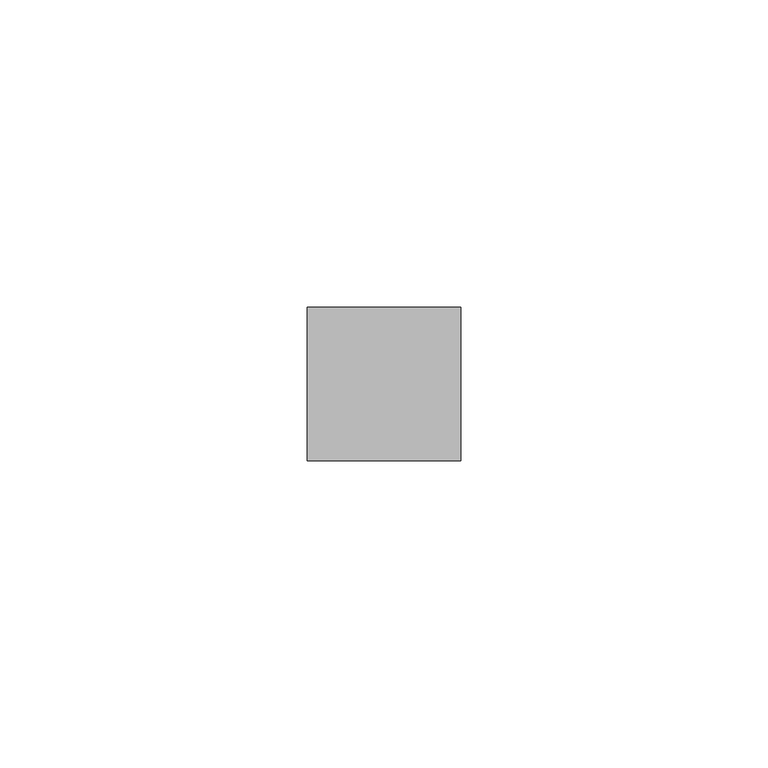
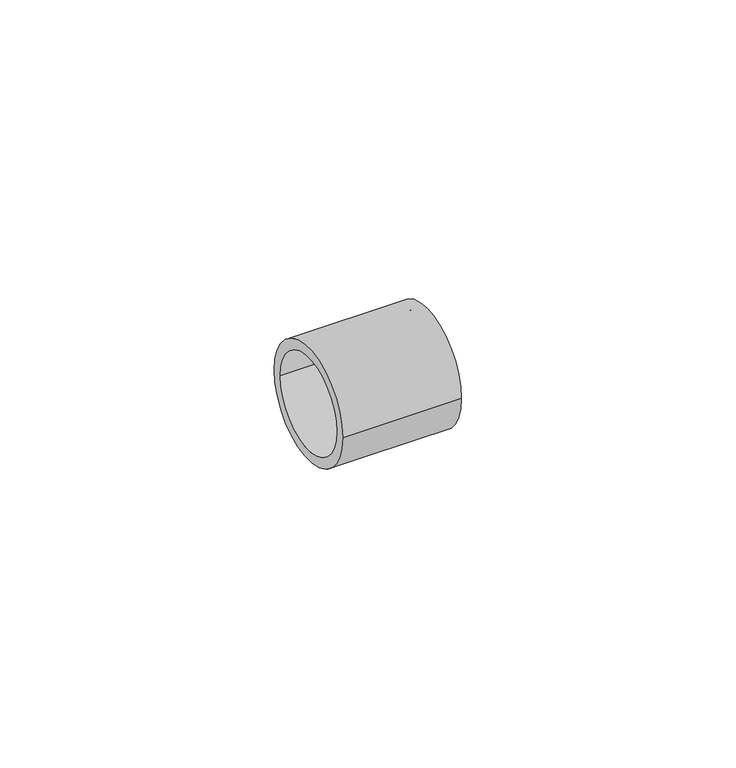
"""IFC4 building model written with IfcOpenShell, lengths in millimetres: pipe fitting geometry, RAUTITAN_Sleeve SDR 7,4 : RTI S SDR 7,4."""

from ifc_helpers import new_model, si_unit, point, frame, origin, origin_2d, place, context, project, spatial, circle_curve, trimmed, segment, composite_curve, outline, extrude, source, transform, mapped, element, save


def pipe_fitting_6fe5a3bb(model_context):
    return source(origin(), model_context, "Body", "SweptSolid", [
        extrude(outline(composite_curve([segment(trimmed(circle_curve(origin_2d(), 12.5), [point((-12.5, 0.0))], [point((12.5, 0.0))], False, "CARTESIAN"), True, "CONTINUOUS"), segment(trimmed(circle_curve(origin_2d(), 12.5), [point((12.5, 0.0))], [point((-12.5, 0.0))], False, "CARTESIAN"), True, "CONTINUOUS")], self_intersect=False), holes=[composite_curve([segment(trimmed(circle_curve(origin_2d(), 10.3), [point((-10.3, 0.0))], [point((10.3, 0.0))], True, "CARTESIAN"), True, "CONTINUOUS"), segment(trimmed(circle_curve(origin_2d(), 10.3), [point((10.3, 0.0))], [point((-10.3, 0.0))], True, "CARTESIAN"), True, "CONTINUOUS")], self_intersect=False)]), frame((0.0, 0.0, 0.0), z_axis=(1.0, 0.0, 0.0), x_axis=(0.0, 1.0, 0.0)), (0.0, 0.0, 1.0), 25.0),
    ])


if __name__ == "__main__":
    model = new_model("IFC4")
    model_context = context("Model", 3, world=origin())
    ifc_project = project(units=[si_unit("LENGTHUNIT", "METRE", prefix="MILLI")], contexts=[model_context])
    site = spatial("IfcSite", under=ifc_project)
    building = spatial("IfcBuilding", under=site)
    placement = place(None, origin())
    pipe_fitting_shape = pipe_fitting_6fe5a3bb(model_context)
    element("IfcPipeFitting", 1, ObjectType="RAUTITAN_Sleeve SDR 7,4 : RTI S SDR 7,4", at=placement, inside=building, context=model_context, shape_type="MappedRepresentation", body=[
        mapped(pipe_fitting_shape, transform((0.0, 0.0, 0.0), x_axis=(1.0, 0.0, 0.0), y_axis=(0.0, 1.0, 0.0), z_axis=(0.0, 0.0, 1.0))),
    ])
    save(model, "model.ifc")
